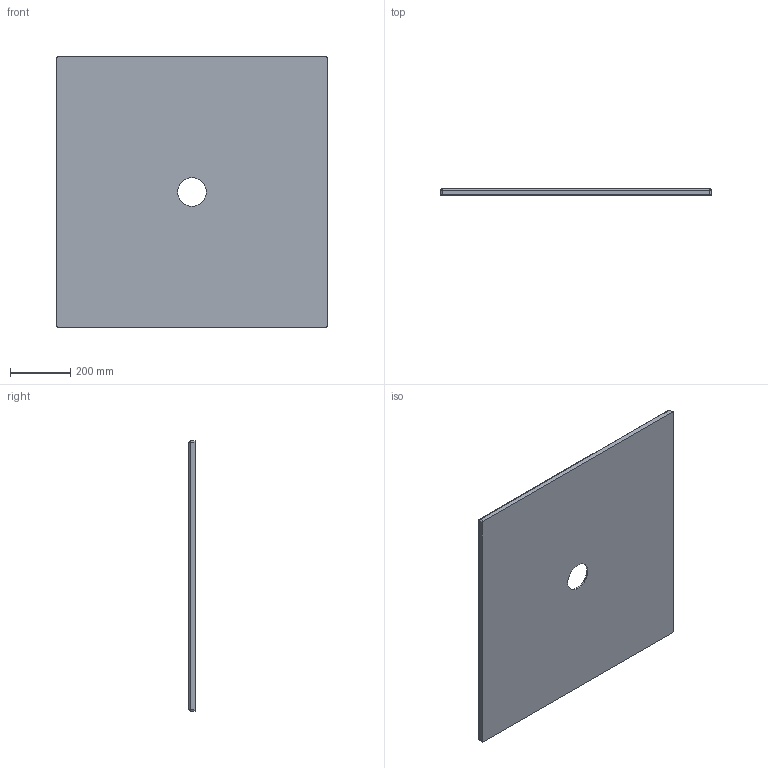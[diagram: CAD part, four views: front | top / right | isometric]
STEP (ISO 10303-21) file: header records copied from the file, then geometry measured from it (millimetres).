
FILE_DESCRIPTION (( 'STEP AP203' ), '1' );
FILE_NAME ('SDPD09009020.STEP', '2023-03-31T10:43:26', ( '' ), ( '' ), 'SwSTEP 2.0', 'SolidWorks 2023', '' );
FILE_SCHEMA (( 'CONFIG_CONTROL_DESIGN' ));
Length unit declared in the file: millimetre
Products named in the file (1): SDPD09009020
Bounding box: 900 x 20 x 900 mm (x, y, z)
Volume: 13419473.4 mm3; surface area: 1667662 mm2
Topology: 1 solids, 1 shells, 26 faces, 62 edges, 40 vertices
Faces by surface type: cylinder 9, plane 8, sphere 4, bspline 2, torus 2, cone 1
Full cylindrical faces by diameter (mm): 95 x1
Entity records: 2564 total; most frequent: CARTESIAN_POINT 1948, DIRECTION 108, ORIENTED_EDGE 104, EDGE_CURVE 52, AXIS2_PLACEMENT_3D 44, VERTEX_POINT 36, EDGE_LOOP 36, FACE_OUTER_BOUND 31
